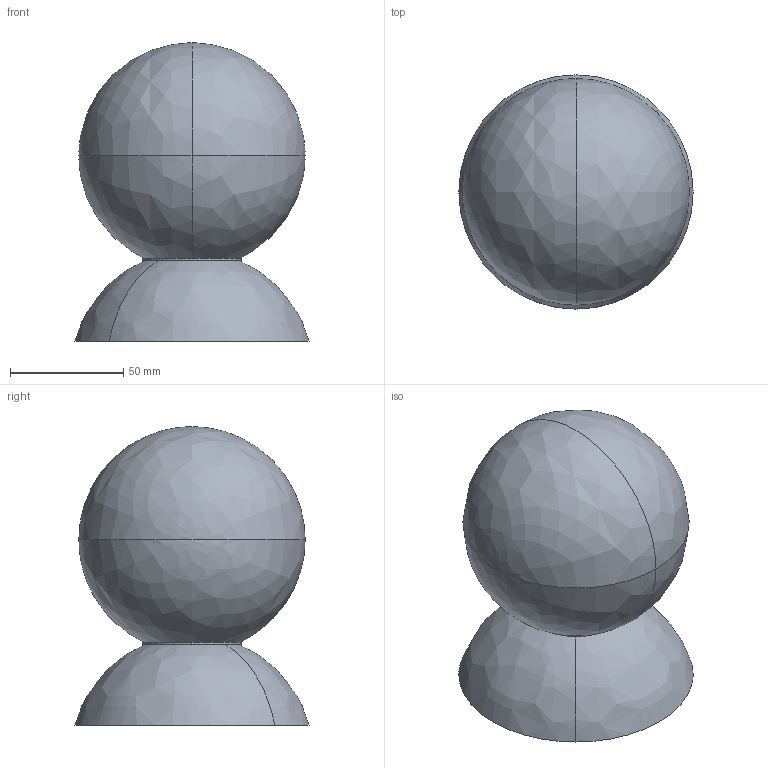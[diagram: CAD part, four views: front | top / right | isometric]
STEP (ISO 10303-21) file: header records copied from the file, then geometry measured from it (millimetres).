
FILE_DESCRIPTION(/* description */ (''),/* implementation_level */ '2;1');
FILE_NAME(/* name */ 'P115__~1',/* time_stamp */ '2024-07-03T10:31:52+02:00',/* author */ (''),/* organization */ (''),/* preprocessor_version */ 'ST-DEVELOPER v16.5',/* originating_system */ '',/* authorisation */ '');
FILE_SCHEMA (('AUTOMOTIVE_DESIGN'));
Length unit declared in the file: millimetre
Products named in the file (1): Document
Bounding box: 103.53 x 103.53 x 132.06 mm (x, y, z)
Volume: 105969.5 mm3; surface area: 90129.8 mm2
Topology: 6 solids, 6 shells, 135 faces, 318 edges, 188 vertices
Faces by surface type: bspline 96, plane 39
Entity records: 6393 total; most frequent: CARTESIAN_POINT 4579, ORIENTED_EDGE 608, EDGE_CURVE 304, VERTEX_POINT 188, EDGE_LOOP 156, ADVANCED_FACE 135, FACE_OUTER_BOUND 135, B_SPLINE_CURVE_WITH_KNOTS 110
